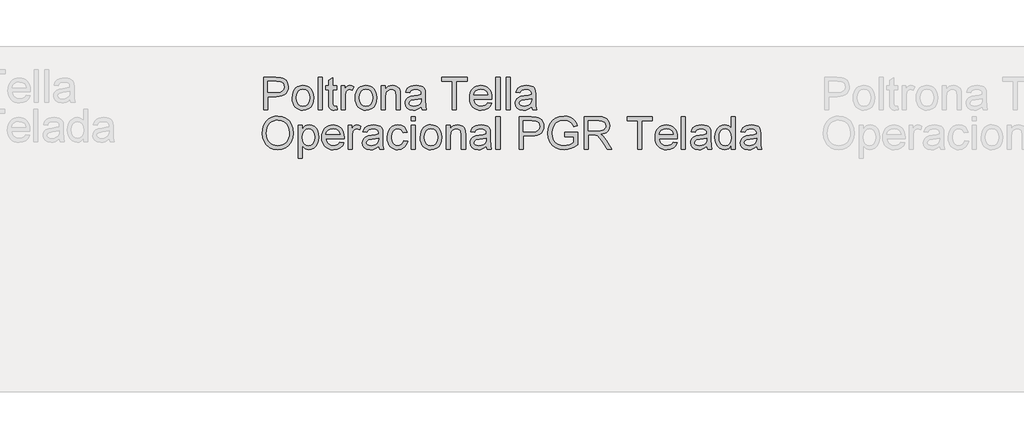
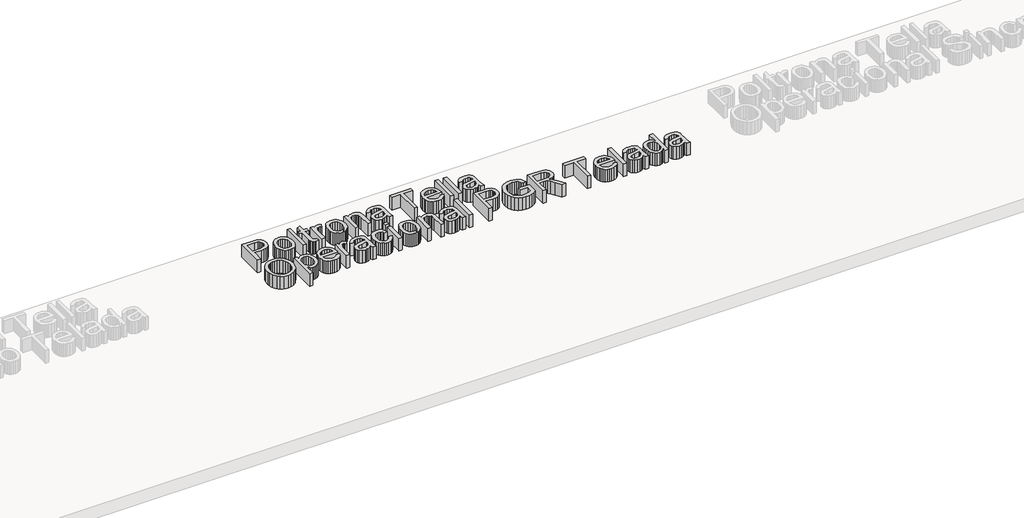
# One storey, part 4 of 5: 1 proxy.
"""IFC4 building model written with IfcOpenShell, lengths in millimetres."""

from ifc_helpers import new_model, si_unit, origin, origin_with_axes, place, context, project, spatial, polyline, outline, extrude, element, save

model = new_model("IFC4")

# Units and contexts
model_context = context("Model", 3, world=origin())
ifc_project = project(units=[si_unit("LENGTHUNIT", "METRE", prefix="MILLI")], contexts=[model_context])

# Site, building, storey
site = spatial("IfcSite", under=ifc_project)
building = spatial("IfcBuilding", under=site)
storey = spatial("IfcBuildingStorey", under=building, Name="Nível 1", Elevation=0.0)

# Proxy
placement = place(None, origin())
element("IfcBuildingElementProxy", 1, Name="300 mm", ObjectType="300 mm", at=placement, inside=storey, context=model_context, shape_type="SweptSolid", body=[
    extrude(outline(polyline([(4285.1352066, 6235.2002146), (4285.1352066, 6536.5691451), (4396.8241803, 6536.5691451), (4441.8529365, 6533.6996655), (4461.9300964, 6528.3377854), (4478.457195, 6519.6097851), (4491.7653262, 6507.1201913), (4502.1855837, 6490.4735311), (4508.9178242, 6470.8378296), (4511.1619044, 6449.3811122), (4509.6466904, 6430.8812464), (4505.1010485, 6413.8621056), (4497.5249787, 6398.3236898), (4486.9184809, 6384.2659991), (4472.3572517, 6372.6133369), (4452.9169875, 6364.2900067), (4428.5976884, 6359.2960086), (4399.3993543, 6357.6313426), (4322.8063229, 6357.6313426), (4322.8063229, 6235.2002146), (4285.1352066, 6235.2002146)]), holes=[polyline([(4322.8063229, 6395.3024589), (4401.6066462, 6395.3024589), (4435.0103314, 6398.7605497), (4457.0832511, 6409.1348219), (4469.3889039, 6425.7814822), (4473.4907881, 6448.056737), (4471.071964, 6464.9793088), (4463.8154916, 6479.2531302), (4452.6226819, 6489.9952845), (4438.3948458, 6496.3228548), (4400.7237295, 6498.8980288), (4322.8063229, 6498.8980288), (4322.8063229, 6395.3024589)])]), origin_with_axes(), (0.0, 0.0, 1.0), 150.0),
    extrude(outline(polyline([(4548.8330207, 6345.8591188), (4550.8701673, 6374.5217247), (4556.9816069, 6399.2204022), (4567.1673396, 6419.9551511), (4581.4273655, 6436.7259716), (4595.7839603, 6447.4451332), (4611.6304773, 6455.1016772), (4628.9669163, 6459.6956036), (4647.7932774, 6461.2269124), (4668.5763109, 6459.3622106), (4687.368183, 6453.768105), (4704.1688939, 6444.4445957), (4718.9784435, 6431.3916826), (4731.0656663, 6415.0508243), (4739.6993969, 6395.863479), (4744.8796352, 6373.8296467), (4746.6063813, 6348.9493275), (4743.5529608, 6310.8919351), (4734.3926991, 6281.921228), (4719.3923107, 6260.2253873), (4698.8185101, 6243.9925943), (4674.3819486, 6233.8666424), (4647.7932774, 6230.4913251), (4626.7067413, 6232.3491291), (4607.7401252, 6237.9225414), (4590.8934291, 6247.2115618), (4576.166653, 6260.2161903), (4564.2081888, 6276.7156978), (4555.6664288, 6296.489355), (4550.5413727, 6319.537162), (4548.8330207, 6345.8591188)]), holes=[polyline([(4586.504137, 6345.9326952), (4590.8635387, 6311.8392313), (4603.9417436, 6287.5498225), (4623.6234303, 6273.0092867), (4647.7932774, 6268.1624414), (4671.8527599, 6273.0368778), (4691.4976584, 6287.6601871), (4704.5758634, 6312.2714926), (4708.935265, 6347.1099175), (4704.5482722, 6380.2101001), (4691.3872938, 6404.168415), (4671.7148042, 6418.7089509), (4647.7932774, 6423.5557961), (4623.6234303, 6418.727345), (4603.9417436, 6404.2419914), (4590.8635387, 6380.007765), (4586.504137, 6345.9326952)])]), origin_with_axes(), (0.0, 0.0, 1.0), 150.0),
    extrude(outline(polyline([(4788.9863872, 6235.2002146), (4788.9863872, 6536.5691451), (4826.6575035, 6536.5691451), (4826.6575035, 6235.2002146), (4788.9863872, 6235.2002146)])), origin_with_axes(), (0.0, 0.0, 1.0), 150.0),
    extrude(outline(polyline([(4963.2153001, 6266.617337), (4967.9241896, 6234.0965686), (4939.7444288, 6230.4913251), (4921.6630287, 6232.0548236), (4908.1801536, 6236.745319), (4898.6520099, 6243.9742002), (4892.4348042, 6253.152856), (4889.0135017, 6268.9165995), (4887.8730675, 6295.9007438), (4887.8730675, 6418.8469066), (4859.6197302, 6418.8469066), (4859.6197302, 6456.5180229), (4887.8730675, 6456.5180229), (4887.8730675, 6510.3023706), (4925.5441838, 6532.4488667), (4925.5441838, 6456.5180229), (4963.2153001, 6456.5180229), (4963.2153001, 6418.8469066), (4925.5441838, 6418.8469066), (4925.5441838, 6297.0043898), (4927.5307465, 6277.5802205), (4933.9686815, 6270.7008271), (4946.8077631, 6268.1624414), (4963.2153001, 6266.617337)])), origin_with_axes(), (0.0, 0.0, 1.0), 150.0),
    extrude(outline(polyline([(5000.8864164, 6235.2002146), (5000.8864164, 6456.5180229), (5033.8486432, 6456.5180229), (5033.8486432, 6423.7765253), (5046.0255372, 6442.7592363), (5057.245938, 6453.9428489), (5068.5031271, 6459.4058966), (5080.7903857, 6461.2269124), (5099.5523675, 6458.3206447), (5118.6086548, 6449.6018414), (5106.0270906, 6415.8302742), (5092.7833388, 6421.6244157), (5079.539587, 6423.5557961), (5068.291595, 6421.6979921), (5058.2392194, 6416.1245798), (5050.1182244, 6407.2586238), (5044.6643738, 6395.5231881), (5040.084243, 6374.480338), (5038.5575327, 6351.5245015), (5038.5575327, 6235.2002146), (5000.8864164, 6235.2002146)])), origin_with_axes(), (0.0, 0.0, 1.0), 150.0),
    extrude(outline(polyline([(5132.7353235, 6345.8591188), (5134.77247, 6374.5217247), (5140.8839096, 6399.2204022), (5151.0696424, 6419.9551511), (5165.3296682, 6436.7259716), (5179.6862631, 6447.4451332), (5195.53278, 6455.1016772), (5212.8692191, 6459.6956036), (5231.6955802, 6461.2269124), (5252.4786136, 6459.3622106), (5271.2704858, 6453.768105), (5288.0711967, 6444.4445957), (5302.8807462, 6431.3916826), (5314.967969, 6415.0508243), (5323.6016996, 6395.863479), (5328.7819379, 6373.8296467), (5330.5086841, 6348.9493275), (5327.4552635, 6310.8919351), (5318.2950018, 6281.921228), (5303.2946135, 6260.2253873), (5282.7208129, 6243.9925943), (5258.2842514, 6233.8666424), (5231.6955802, 6230.4913251), (5210.609044, 6232.3491291), (5191.6424279, 6237.9225414), (5174.7957318, 6247.2115618), (5160.0689557, 6260.2161903), (5148.1104916, 6276.7156978), (5139.5687315, 6296.489355), (5134.4436755, 6319.537162), (5132.7353235, 6345.8591188)]), holes=[polyline([(5170.4064398, 6345.9326952), (5174.7658414, 6311.8392313), (5187.8440463, 6287.5498225), (5207.5257331, 6273.0092867), (5231.6955802, 6268.1624414), (5255.7550626, 6273.0368778), (5275.3999612, 6287.6601871), (5288.4781661, 6312.2714926), (5292.8375678, 6347.1099175), (5288.450575, 6380.2101001), (5275.2895966, 6404.168415), (5255.6171069, 6418.7089509), (5231.6955802, 6423.5557961), (5207.5257331, 6418.727345), (5187.8440463, 6404.2419914), (5174.7658414, 6380.007765), (5170.4064398, 6345.9326952)])]), origin_with_axes(), (0.0, 0.0, 1.0), 150.0),
    extrude(outline(polyline([(5372.8886899, 6235.2002146), (5372.8886899, 6456.5180229), (5410.5598062, 6456.5180229), (5410.5598062, 6425.6159353), (5423.6472082, 6441.1957378), (5439.3649664, 6452.3241682), (5457.7130809, 6459.0012264), (5478.6915517, 6461.2269124), (5497.2603954, 6459.4334877), (5514.2657407, 6454.0532135), (5528.4475916, 6445.7574746), (5538.5459523, 6435.2176554), (5549.8399296, 6407.5161412), (5551.8264924, 6371.0958236), (5551.8264924, 6235.2002146), (5514.1553761, 6235.2002146), (5514.1553761, 6366.0190521), (5509.8143685, 6399.3491609), (5503.8086949, 6409.2727777), (5494.4736893, 6416.9707084), (5482.5083274, 6421.9095242), (5468.6115851, 6423.5557961), (5446.5478624, 6419.8585821), (5427.7398954, 6408.7669399), (5420.2236064, 6399.7124443), (5414.8548285, 6387.3378137), (5410.5598062, 6352.6281475), (5410.5598062, 6235.2002146), (5372.8886899, 6235.2002146)])), origin_with_axes(), (0.0, 0.0, 1.0), 150.0),
    extrude(outline(polyline([(5744.8909634, 6263.4535518), (5726.8923368, 6248.0209021), (5708.3602813, 6237.9225414), (5688.8717326, 6232.3491291), (5668.0036264, 6230.4913251), (5636.5221247, 6234.9610913), (5613.2995738, 6248.37039), (5598.9797671, 6268.7326585), (5594.2064982, 6294.0613338), (5596.00912, 6309.6779245), (5601.4169853, 6323.8597754), (5609.7587096, 6335.9998813), (5620.3629081, 6345.4912368), (5646.7400471, 6357.8520718), (5679.3343919, 6363.5174545), (5717.8516368, 6369.4771429), (5744.6702342, 6376.4669008), (5744.8909634, 6384.8546102), (5742.2973954, 6401.6668174), (5734.5166912, 6412.6664891), (5717.1158728, 6420.8334694), (5692.8724493, 6423.5557961), (5670.4316476, 6421.7439773), (5654.7598746, 6416.3085208), (5644.0729027, 6406.2561453), (5636.5865041, 6390.5935694), (5598.9153877, 6395.3024589), (5605.4544902, 6415.9038506), (5615.2125601, 6432.0906584), (5629.1001054, 6444.4698876), (5648.0276341, 6453.6485433), (5671.1766086, 6459.3323202), (5697.7284916, 6461.2269124), (5723.1951228, 6459.5530494), (5743.3826473, 6454.5314601), (5758.6037648, 6446.9806822), (5769.1711751, 6437.719253), (5776.1793271, 6426.2689259), (5780.7226698, 6412.1514543), (5782.5620797, 6379.1892275), (5782.5620797, 6332.3210613), (5784.4750661, 6266.8748544), (5791.9798588, 6235.2002146), (5754.3087425, 6235.2002146), (5744.8909634, 6263.4535518)]), holes=[polyline([(5744.8909634, 6338.7957845), (5684.1168578, 6327.2442898), (5651.7064541, 6321.1374487), (5637.0279624, 6311.2046348), (5631.8776145, 6296.7100842), (5634.6827147, 6285.5080775), (5643.0980154, 6276.3294217), (5656.9395754, 6270.2041865), (5676.0234539, 6268.1624414), (5696.2569637, 6270.4157186), (5714.1360286, 6277.1755503), (5728.6305792, 6287.1359553), (5738.7105459, 6298.9909526), (5743.1803122, 6311.2046348), (5744.6702342, 6328.1272066), (5744.8909634, 6338.7957845)])]), origin_with_axes(), (0.0, 0.0, 1.0), 150.0),
    extrude(outline(polyline([(6032.1332253, 6235.2002146), (6032.1332253, 6498.8980288), (5933.246545, 6498.8980288), (5933.246545, 6536.5691451), (6168.6910219, 6536.5691451), (6168.6910219, 6498.8980288), (6069.8043416, 6498.8980288), (6069.8043416, 6235.2002146), (6032.1332253, 6235.2002146)])), origin_with_axes(), (0.0, 0.0, 1.0), 150.0),
    extrude(outline(polyline([(6361.3140345, 6301.1246681), (6398.2493869, 6296.4157786), (6384.9412557, 6268.5855057), (6363.7052675, 6247.7817788), (6335.0196689, 6234.8139385), (6299.3627066, 6230.4913251), (6275.9884043, 6232.3560269), (6255.1616848, 6237.9501325), (6236.8825482, 6247.2736418), (6221.1509944, 6260.3265549), (6208.5004523, 6276.7455882), (6199.4643508, 6296.1674583), (6194.0426899, 6318.5921651), (6192.2354696, 6344.0197088), (6194.061084, 6370.3094759), (6199.5379272, 6393.481443), (6208.6659992, 6413.5356103), (6221.4453, 6430.4719777), (6237.1354671, 6443.9272616), (6254.9961379, 6453.5381787), (6275.0273126, 6459.304729), (6297.228991, 6461.2269124), (6318.7155988, 6459.3093275), (6338.1466659, 6453.5565728), (6355.5221924, 6443.9686483), (6370.8421782, 6430.545554), (6383.3478668, 6413.6459749), (6392.2805015, 6393.6285958), (6397.6400823, 6370.4934169), (6399.4266092, 6344.240438), (6399.2058801, 6334.0868949), (6229.9065859, 6334.0868949), (6236.4272942, 6305.88874), (6251.5748354, 6285.1585896), (6273.436223, 6272.4114784), (6300.0984706, 6268.1624414), (6320.1480393, 6270.1306101), (6337.0338229, 6276.0351161), (6350.7558213, 6286.2438414), (6361.3140345, 6301.1246681)]), holes=[polyline([(6229.9065859, 6371.7580112), (6361.7554929, 6371.7580112), (6356.6603273, 6391.6604272), (6346.6723311, 6405.8974604), (6324.709776, 6419.1412122), (6297.0818382, 6423.5557961), (6271.6887835, 6420.033326), (6250.6919186, 6409.4659157), (6236.0962004, 6392.9939994), (6229.9065859, 6371.7580112)])]), origin_with_axes(), (0.0, 0.0, 1.0), 150.0),
    extrude(outline(polyline([(6437.0977256, 6235.2002146), (6437.0977256, 6536.5691451), (6474.7688419, 6536.5691451), (6474.7688419, 6235.2002146), (6437.0977256, 6235.2002146)])), origin_with_axes(), (0.0, 0.0, 1.0), 150.0),
    extrude(outline(polyline([(6531.2755163, 6235.2002146), (6531.2755163, 6536.5691451), (6568.9466326, 6536.5691451), (6568.9466326, 6235.2002146), (6531.2755163, 6235.2002146)])), origin_with_axes(), (0.0, 0.0, 1.0), 150.0),
    extrude(outline(polyline([(6766.7199932, 6263.4535518), (6748.7213666, 6248.0209021), (6730.1893111, 6237.9225414), (6710.7007624, 6232.3491291), (6689.8326562, 6230.4913251), (6658.3511545, 6234.9610913), (6635.1286036, 6248.37039), (6620.8087969, 6268.7326585), (6616.035528, 6294.0613338), (6617.8381498, 6309.6779245), (6623.2460151, 6323.8597754), (6631.5877394, 6335.9998813), (6642.1919379, 6345.4912368), (6668.5690769, 6357.8520718), (6701.1634217, 6363.5174545), (6739.6806666, 6369.4771429), (6766.499264, 6376.4669008), (6766.7199932, 6384.8546102), (6764.1264252, 6401.6668174), (6756.345721, 6412.6664891), (6738.9449026, 6420.8334694), (6714.7014791, 6423.5557961), (6692.2606774, 6421.7439773), (6676.5889044, 6416.3085208), (6665.9019325, 6406.2561453), (6658.4155339, 6390.5935694), (6620.7444175, 6395.3024589), (6627.28352, 6415.9038506), (6637.0415899, 6432.0906584), (6650.9291353, 6444.4698876), (6669.8566639, 6453.6485433), (6693.0056385, 6459.3323202), (6719.5575215, 6461.2269124), (6745.0241526, 6459.5530494), (6765.2116771, 6454.5314601), (6780.4327946, 6446.9806822), (6791.0002049, 6437.719253), (6798.0083569, 6426.2689259), (6802.5516996, 6412.1514543), (6804.3911095, 6379.1892275), (6804.3911095, 6332.3210613), (6806.3040959, 6266.8748544), (6813.8088886, 6235.2002146), (6776.1377723, 6235.2002146), (6766.7199932, 6263.4535518)]), holes=[polyline([(6766.7199932, 6338.7957845), (6705.9458876, 6327.2442898), (6673.5354839, 6321.1374487), (6658.8569922, 6311.2046348), (6653.7066443, 6296.7100842), (6656.5117445, 6285.5080775), (6664.9270452, 6276.3294217), (6678.7686052, 6270.2041865), (6697.8524837, 6268.1624414), (6718.0859935, 6270.4157186), (6735.9650584, 6277.1755503), (6750.459609, 6287.1359553), (6760.5395757, 6298.9909526), (6765.009342, 6311.2046348), (6766.499264, 6328.1272066), (6766.7199932, 6338.7957845)])]), origin_with_axes(), (0.0, 0.0, 1.0), 150.0),
    extrude(outline(polyline([(4271.008538, 6015.9871008), (4273.5193326, 6051.335962), (4281.0517164, 6082.6289242), (4293.6056895, 6109.8659874), (4311.1812518, 6133.0471516), (4332.7253412, 6151.5562145), (4357.1848953, 6164.7769737), (4384.5599143, 6172.7094292), (4414.8503981, 6175.3535811), (4454.3793185, 6170.3871741), (4489.8247487, 6155.4879533), (4519.2553083, 6131.7043823), (4540.7396168, 6100.0849248), (4553.873004, 6062.1562911), (4558.2507998, 6019.4451915), (4553.6430778, 5976.1638748), (4539.8199118, 5937.7018122), (4517.544657, 5906.0271724), (4487.5806685, 5883.1081241), (4452.4387409, 5869.2021847), (4414.6296689, 5864.5668715), (4374.4937432, 5869.6896283), (4338.8459779, 5885.0578987), (4309.4889947, 5909.2829281), (4288.2254153, 5940.9759619), (4275.3127573, 5977.4422647), (4271.008538, 6015.9871008)]), holes=[polyline([(4308.6796543, 6015.6192188), (4310.5627502, 5990.6446298), (4316.2120381, 5968.4751411), (4325.6275179, 5949.1107526), (4338.8091897, 5932.5514642), (4354.8327498, 5919.2893183), (4372.7738949, 5909.8163569), (4392.6326248, 5904.1325801), (4414.4089397, 5902.2379878), (4436.557735, 5904.1509742), (4456.6509898, 5909.8899333), (4474.6887038, 5919.4548652), (4490.6708773, 5932.8457698), (4503.75598, 5949.754546), (4513.1024819, 5969.8730927), (4518.7103831, 5993.2014097), (4520.5796835, 6019.7394971), (4517.3791101, 6053.088), (4507.7773901, 6081.9115543), (4492.0228436, 6105.4835931), (4470.3637911, 6123.0775495), (4444.2349724, 6134.031236), (4415.0711273, 6137.6824648), (4394.0512698, 6135.923529), (4374.5489255, 6130.6467216), (4356.5640945, 6121.8520427), (4340.0967766, 6109.5394921), (4326.3517856, 6093.1158603), (4316.5339349, 6071.9879375), (4310.6432244, 6046.1557236), (4308.6796543, 6015.6192188)])]), origin_with_axes(), (0.0, 0.0, 1.0), 150.0),
    extrude(outline(polyline([(4605.3396952, 5784.5157494), (4605.3396952, 6090.5935694), (4643.0108115, 6090.5935694), (4643.0108115, 6053.6582171), (4655.2980701, 6071.8775729), (4669.0568567, 6084.8913984), (4685.0965117, 6092.6996938), (4704.2263755, 6095.3024589), (4729.7022036, 6091.6604272), (4751.9774584, 6080.7343319), (4770.1140408, 6063.1863607), (4783.1738516, 6039.6787012), (4791.0649204, 6011.9220047), (4793.6952767, 5981.6269224), (4790.7246296, 5949.4096567), (4781.8126883, 5920.5952994), (4767.2445612, 5896.6461815), (4747.3053571, 5879.0246339), (4724.0828062, 5868.1813121), (4699.6646387, 5864.5668715), (4682.3465938, 5866.9856957), (4666.886353, 5874.242168), (4653.6517982, 5885.1958544), (4643.0108115, 5898.7063207), (4643.0108115, 5784.5157494), (4605.3396952, 5784.5157494)]), holes=[polyline([(4643.0108115, 5978.1688316), (4647.0851046, 5944.3972645), (4659.3079839, 5920.7792404), (4677.3433987, 5906.873301), (4698.8552983, 5902.2379878), (4720.7166859, 5907.0388479), (4739.2119532, 5921.441428), (4751.8211086, 5945.9239748), (4756.0241604, 5980.9647348), (4751.9222761, 6014.552361), (4739.6166234, 6038.5014789), (4721.6087997, 6052.8488767), (4700.4004027, 6057.6313426), (4679.1092323, 6052.545374), (4660.4116298, 6037.2874683), (4647.3610161, 6012.3358719), (4643.0108115, 5978.1688316)])]), origin_with_axes(), (0.0, 0.0, 1.0), 150.0),
    extrude(outline(polyline([(4991.0271789, 5935.2002146), (5027.9625312, 5930.4913251), (5014.6544001, 5902.6610521), (4993.4184119, 5881.8573253), (4964.7328133, 5868.889485), (4929.0758509, 5864.5668715), (4905.7015487, 5866.4315734), (4884.8748292, 5872.025679), (4866.5956926, 5881.3491883), (4850.8641388, 5894.4021013), (4838.2135966, 5910.8211346), (4829.1774951, 5930.2430047), (4823.7558342, 5952.6677116), (4821.9486139, 5978.0952552), (4823.7742283, 6004.3850223), (4829.2510715, 6027.5569895), (4838.3791435, 6047.6111568), (4851.1584443, 6064.5475241), (4866.8486114, 6078.0028081), (4884.7092823, 6087.6137252), (4904.7404569, 6093.3802755), (4926.9421354, 6095.3024589), (4948.4287431, 6093.384874), (4967.8598103, 6087.6321193), (4985.2353368, 6078.0441948), (5000.5553226, 6064.6211005), (5013.0610112, 6047.7215214), (5021.9936459, 6027.7041423), (5027.3532267, 6004.5689633), (5029.1397536, 5978.3159844), (5028.9190244, 5968.1624414), (4859.6197302, 5968.1624414), (4866.1404386, 5939.9642864), (4881.2879798, 5919.234136), (4903.1493673, 5906.4870249), (4929.8116149, 5902.2379878), (4949.8611837, 5904.2061565), (4966.7469672, 5910.1106625), (4980.4689657, 5920.3193879), (4991.0271789, 5935.2002146)]), holes=[polyline([(4859.6197302, 6005.8335577), (4991.4686373, 6005.8335577), (4986.3734717, 6025.7359736), (4976.3854755, 6039.9730068), (4954.4229204, 6053.2167587), (4926.7949826, 6057.6313426), (4901.4019278, 6054.1088725), (4880.405063, 6043.5414622), (4865.8093448, 6027.0695459), (4859.6197302, 6005.8335577)])]), origin_with_axes(), (0.0, 0.0, 1.0), 150.0),
    extrude(outline(polyline([(5066.8108699, 5869.2757611), (5066.8108699, 6090.5935694), (5099.7730967, 6090.5935694), (5099.7730967, 6057.8520718), (5111.9499907, 6076.8347828), (5123.1703916, 6088.0183954), (5134.4275806, 6093.481443), (5146.7148393, 6095.3024589), (5165.476821, 6092.3961911), (5184.5331084, 6083.6773879), (5171.9515441, 6049.9058207), (5158.7077923, 6055.6999621), (5145.4640405, 6057.6313426), (5134.2160485, 6055.7735385), (5124.163673, 6050.2001263), (5116.0426779, 6041.3341702), (5110.5888273, 6029.5987346), (5106.0086965, 6008.5558844), (5104.4819862, 5985.6000479), (5104.4819862, 5869.2757611), (5066.8108699, 5869.2757611)])), origin_with_axes(), (0.0, 0.0, 1.0), 150.0),
    extrude(outline(polyline([(5349.3442422, 5897.5290983), (5331.3456156, 5882.0964486), (5312.8135601, 5871.9980878), (5293.3250114, 5866.4246756), (5272.4569052, 5864.5668715), (5240.9754035, 5869.0366378), (5217.7528525, 5882.4459365), (5203.4330459, 5902.8082049), (5198.659777, 5928.1368803), (5200.4623988, 5943.753471), (5205.8702641, 5957.9353219), (5214.2119883, 5970.0754278), (5224.8161868, 5979.5667832), (5251.1933259, 5991.9276183), (5283.7876707, 5997.593001), (5322.3049156, 6003.5526893), (5349.123513, 6010.5424472), (5349.3442422, 6018.9301567), (5346.7506742, 6035.7423639), (5338.96997, 6046.7420355), (5321.5691516, 6054.9090158), (5297.3257281, 6057.6313426), (5274.8849264, 6055.8195238), (5259.2131534, 6050.3840673), (5248.5261814, 6040.3316918), (5241.0397828, 6024.6691158), (5203.3686665, 6029.3780054), (5209.907769, 6049.9793971), (5219.6658389, 6066.1662049), (5233.5533842, 6078.545434), (5252.4809129, 6087.7240898), (5275.6298874, 6093.4078666), (5302.1817704, 6095.3024589), (5327.6484016, 6093.6285958), (5347.835926, 6088.6070066), (5363.0570436, 6081.0562286), (5373.6244539, 6071.7947994), (5380.6326059, 6060.3444723), (5385.1759485, 6046.2270008), (5387.0153585, 6013.264774), (5387.0153585, 5966.3966078), (5388.9283449, 5900.9504009), (5396.4331376, 5869.2757611), (5358.7620213, 5869.2757611), (5349.3442422, 5897.5290983)]), holes=[polyline([(5349.3442422, 5972.8713309), (5288.5701366, 5961.3198363), (5256.1597328, 5955.2129951), (5241.4812412, 5945.2801813), (5236.3308933, 5930.7856307), (5239.1359935, 5919.5836239), (5247.5512942, 5910.4049681), (5261.3928542, 5904.2797329), (5280.4767327, 5902.2379878), (5300.7102425, 5904.4912651), (5318.5893074, 5911.2510967), (5333.083858, 5921.2115017), (5343.1638247, 5933.066499), (5347.6335909, 5945.2801813), (5349.123513, 5962.2027531), (5349.3442422, 5972.8713309)])]), origin_with_axes(), (0.0, 0.0, 1.0), 150.0),
    extrude(outline(polyline([(5580.0798296, 5949.3268832), (5617.7509459, 5944.6179937), (5607.2479149, 5911.113141), (5587.5110459, 5885.7936627), (5560.3981428, 5869.8735693), (5527.7670099, 5864.5668715), (5506.639087, 5866.4177778), (5487.6954636, 5871.9704967), (5470.9361394, 5881.2250281), (5456.3611146, 5894.1813721), (5444.5635989, 5910.5958069), (5436.1368019, 5930.2246106), (5431.0807238, 5953.0677833), (5429.3953644, 5979.1253248), (5432.274041, 6012.6485716), (5440.9100708, 6041.7020522), (5455.4414096, 6065.1637265), (5476.0060132, 6081.9115543), (5500.6081216, 6091.9547328), (5527.2519751, 6095.3024589), (5559.0829647, 6090.703934), (5584.5312017, 6076.9083592), (5602.7873457, 6054.6514984), (5613.0420564, 6024.6691158), (5575.3709401, 6019.9602263), (5568.537532, 6036.3953544), (5557.8965453, 6048.1767753), (5544.0365911, 6055.2677008), (5527.5462807, 6057.6313426), (5503.2016896, 6052.9776354), (5483.8786879, 6039.0165136), (5471.2695325, 6014.9938194), (5467.0664807, 5980.1553944), (5471.177562, 5944.8479199), (5483.5108059, 5920.7424522), (5502.4843198, 5906.8641039), (5526.5162111, 5902.2379878), (5546.0231539, 5905.1258615), (5562.0168236, 5913.7894825), (5573.6510917, 5928.44958), (5580.0798296, 5949.3268832)])), origin_with_axes(), (0.0, 0.0, 1.0), 150.0),
    extrude(outline(polyline([(5650.7131727, 6132.9735752), (5650.7131727, 6170.6446915), (5688.384289, 6170.6446915), (5688.384289, 6132.9735752), (5650.7131727, 6132.9735752)])), origin_with_axes(), (0.0, 0.0, 1.0), 150.0),
    extrude(outline(polyline([(5650.7131727, 5869.2757611), (5650.7131727, 6090.5935694), (5688.384289, 6090.5935694), (5688.384289, 5869.2757611), (5650.7131727, 5869.2757611)])), origin_with_axes(), (0.0, 0.0, 1.0), 150.0),
    extrude(outline(polyline([(5735.4731844, 5979.9346652), (5737.5103309, 6008.5972712), (5743.6217705, 6033.2959486), (5753.8075033, 6054.0306976), (5768.0675291, 6070.801518), (5782.424124, 6081.5206797), (5798.2706409, 6089.1772237), (5815.60708, 6093.7711501), (5834.4334411, 6095.3024589), (5855.2164745, 6093.437757), (5874.0083467, 6087.8436515), (5890.8090576, 6078.5201421), (5905.6186071, 6065.4672291), (5917.7058299, 6049.1263707), (5926.3395605, 6029.9390254), (5931.5197988, 6007.9051932), (5933.246545, 5983.024874), (5930.1931244, 5944.9674816), (5921.0328627, 5915.9967745), (5906.0324744, 5894.3009338), (5885.4586738, 5878.0681408), (5861.0221123, 5867.9421888), (5834.4334411, 5864.5668715), (5813.3469049, 5866.4246756), (5794.3802888, 5871.9980878), (5777.5335927, 5881.2871082), (5762.8068166, 5894.2917367), (5750.8483525, 5910.7912442), (5742.3065924, 5930.5649015), (5737.1815364, 5953.6127085), (5735.4731844, 5979.9346652)]), holes=[polyline([(5773.1443007, 5980.0082416), (5777.5037023, 5945.9147777), (5790.5819072, 5921.625369), (5810.263594, 5907.0848331), (5834.4334411, 5902.2379878), (5858.4929235, 5907.1124243), (5878.1378221, 5921.7357336), (5891.216027, 5946.3470391), (5895.5754287, 5981.185464), (5891.1884359, 6014.2856465), (5878.0274575, 6038.2439615), (5858.3549678, 6052.7844973), (5834.4334411, 6057.6313426), (5810.263594, 6052.8028914), (5790.5819072, 6038.3175379), (5777.5037023, 6014.0833114), (5773.1443007, 5980.0082416)])]), origin_with_axes(), (0.0, 0.0, 1.0), 150.0),
    extrude(outline(polyline([(5975.6265508, 5869.2757611), (5975.6265508, 6090.5935694), (6013.2976671, 6090.5935694), (6013.2976671, 6059.6914818), (6026.3850691, 6075.2712843), (6042.1028273, 6086.3997146), (6060.4509418, 6093.0767728), (6081.4294126, 6095.3024589), (6099.9982563, 6093.5090342), (6117.0036016, 6088.12876), (6131.1854525, 6079.833021), (6141.2838132, 6069.2932019), (6152.5777905, 6041.5916876), (6154.5643533, 6005.1713701), (6154.5643533, 5869.2757611), (6116.893237, 5869.2757611), (6116.893237, 6000.0945986), (6112.5522294, 6033.4247073), (6106.5465558, 6043.3483241), (6097.2115502, 6051.0462549), (6085.2461883, 6055.9850707), (6071.349446, 6057.6313426), (6049.2857233, 6053.9341286), (6030.4777563, 6042.8424864), (6022.9614673, 6033.7879908), (6017.5926894, 6021.4133602), (6013.2976671, 5986.7036939), (6013.2976671, 5869.2757611), (5975.6265508, 5869.2757611)])), origin_with_axes(), (0.0, 0.0, 1.0), 150.0),
    extrude(outline(polyline([(6347.6288243, 5897.5290983), (6329.6301977, 5882.0964486), (6311.0981422, 5871.9980878), (6291.6095935, 5866.4246756), (6270.7414873, 5864.5668715), (6239.2599856, 5869.0366378), (6216.0374347, 5882.4459365), (6201.717628, 5902.8082049), (6196.9443591, 5928.1368803), (6198.7469809, 5943.753471), (6204.1548462, 5957.9353219), (6212.4965705, 5970.0754278), (6223.100769, 5979.5667832), (6249.477908, 5991.9276183), (6282.0722528, 5997.593001), (6320.5894977, 6003.5526893), (6347.4080951, 6010.5424472), (6347.6288243, 6018.9301567), (6345.0352563, 6035.7423639), (6337.2545521, 6046.7420355), (6319.8537337, 6054.9090158), (6295.6103102, 6057.6313426), (6273.1695085, 6055.8195238), (6257.4977355, 6050.3840673), (6246.8107636, 6040.3316918), (6239.3243649, 6024.6691158), (6201.6532486, 6029.3780054), (6208.1923511, 6049.9793971), (6217.950421, 6066.1662049), (6231.8379663, 6078.545434), (6250.765495, 6087.7240898), (6273.9144695, 6093.4078666), (6300.4663525, 6095.3024589), (6325.9329837, 6093.6285958), (6346.1205081, 6088.6070066), (6361.3416257, 6081.0562286), (6371.909036, 6071.7947994), (6378.917188, 6060.3444723), (6383.4605307, 6046.2270008), (6385.2999406, 6013.264774), (6385.2999406, 5966.3966078), (6387.212927, 5900.9504009), (6394.7177197, 5869.2757611), (6357.0466034, 5869.2757611), (6347.6288243, 5897.5290983)]), holes=[polyline([(6347.6288243, 5972.8713309), (6286.8547187, 5961.3198363), (6254.444315, 5955.2129951), (6239.7658233, 5945.2801813), (6234.6154754, 5930.7856307), (6237.4205756, 5919.5836239), (6245.8358763, 5910.4049681), (6259.6774363, 5904.2797329), (6278.7613148, 5902.2379878), (6298.9948246, 5904.4912651), (6316.8738895, 5911.2510967), (6331.3684401, 5921.2115017), (6341.4484068, 5933.066499), (6345.9181731, 5945.2801813), (6347.4080951, 5962.2027531), (6347.6288243, 5972.8713309)])]), origin_with_axes(), (0.0, 0.0, 1.0), 150.0),
    extrude(outline(polyline([(6437.0977256, 5869.2757611), (6437.0977256, 6170.6446915), (6474.7688419, 6170.6446915), (6474.7688419, 5869.2757611), (6437.0977256, 5869.2757611)])), origin_with_axes(), (0.0, 0.0, 1.0), 150.0),
    extrude(outline(polyline([(6653.7066443, 5869.2757611), (6653.7066443, 6170.6446915), (6765.3956181, 6170.6446915), (6810.4243743, 6167.775212), (6830.5015341, 6162.4133319), (6847.0286328, 6153.6853315), (6860.336764, 6141.1957378), (6870.7570215, 6124.5490775), (6877.489262, 6104.913376), (6879.7333422, 6083.4566587), (6878.2181282, 6064.9567928), (6873.6724863, 6047.937652), (6866.0964164, 6032.3992363), (6855.4899187, 6018.3415455), (6840.9286894, 6006.6888833), (6821.4884253, 5998.3655532), (6797.1691261, 5993.3715551), (6767.970792, 5991.7068891), (6691.3777606, 5991.7068891), (6691.3777606, 5869.2757611), (6653.7066443, 5869.2757611)]), holes=[polyline([(6691.3777606, 6029.3780054), (6770.178084, 6029.3780054), (6803.5817692, 6032.8360961), (6825.6546889, 6043.2103684), (6837.9603416, 6059.8570287), (6842.0622258, 6082.1322835), (6839.6434017, 6099.0548553), (6832.3869294, 6113.3286767), (6821.1941197, 6124.0708309), (6806.9662835, 6130.3984013), (6769.2951672, 6132.9735752), (6691.3777606, 6132.9735752), (6691.3777606, 6029.3780054)])]), origin_with_axes(), (0.0, 0.0, 1.0), 150.0),
    extrude(outline(polyline([(7072.7978132, 5986.9979995), (7072.7978132, 6024.6691158), (7195.2289412, 6024.6691158), (7195.2289412, 5912.0236489), (7165.4764849, 5891.3302867), (7134.7859294, 5876.4862482), (7103.2308513, 5867.5467157), (7070.8848268, 5864.5668715), (7028.6243827, 5869.3033522), (6990.4290345, 5883.5127943), (6958.6992124, 5906.698557), (6935.8353464, 5938.3639998), (6922.0121804, 5976.3478158), (6917.4044585, 6018.4886983), (6921.9937863, 6060.9330835), (6935.76177, 6100.4160186), (6958.1381924, 6133.5345953), (6988.5528363, 6156.8859049), (7025.5985532, 6170.736662), (7067.8681945, 6175.3535811), (7098.8990408, 6172.6772395), (7126.8028901, 6164.648215), (7150.3013526, 6151.8459216), (7168.1160382, 6134.8497734), (7181.2954106, 6112.841233), (7190.8879337, 6085.001763), (7156.1598733, 6075.216102), (7148.4067603, 6095.0725327), (7138.9797842, 6110.0545269), (7126.5085845, 6121.3485042), (7109.6228009, 6130.1408839), (7089.4904588, 6135.7970695), (7067.2795833, 6137.6824648), (7041.2795233, 6135.6499167), (7019.0502537, 6129.5522727), (7000.6745481, 6120.1528877), (6986.2351798, 6108.2151169), (6966.8477986, 6079.1892275), (6958.0186307, 6050.7519493), (6955.0755748, 6020.0338027), (6958.616439, 5984.0089583), (6969.2390316, 5954.3668666), (6986.6214559, 5931.3190596), (7010.441815, 5915.0770695), (7038.3180732, 5905.4477583), (7067.8681945, 5902.2379878), (7093.960225, 5904.656812), (7119.408462, 5911.9132843), (7141.5089729, 5921.9104775), (7157.5578249, 5932.5514642), (7157.5578249, 5986.9979995), (7072.7978132, 5986.9979995)])), origin_with_axes(), (0.0, 0.0, 1.0), 150.0),
    extrude(outline(polyline([(7256.4445052, 5869.2757611), (7256.4445052, 6170.6446915), (7386.3068495, 6170.6446915), (7421.2096538, 6168.6121435), (7446.6027085, 6162.5144994), (7465.1623552, 6151.2573104), (7479.5649353, 6133.7461274), (7488.8079704, 6112.0318926), (7491.8889821, 6088.1655482), (7486.7846194, 6058.4774712), (7471.4715314, 6033.8661657), (7459.8717522, 6023.8367828), (7445.4898655, 6015.8215539), (7408.3797692, 6005.8335577), (7429.7905013, 5989.7203263), (7460.3247069, 5950.945564), (7510.5773875, 5869.2757611), (7466.7994301, 5869.2757611), (7427.5832094, 5931.7421239), (7399.2562957, 5973.0920601), (7379.3538798, 5992.6265941), (7361.4380266, 5999.800293), (7339.5858361, 6001.1246681), (7294.1156215, 6001.1246681), (7294.1156215, 5869.2757611), (7256.4445052, 5869.2757611)]), holes=[polyline([(7294.1156215, 6038.7957845), (7378.4341748, 6038.7957845), (7402.6500071, 6040.1293567), (7421.4395801, 6044.1300734), (7435.5846428, 6051.064649), (7445.8669445, 6061.199798), (7452.1301355, 6073.4594654), (7454.2178658, 6086.7675966), (7450.2355432, 6105.1433023), (7438.2885754, 6119.9505526), (7417.7331689, 6129.7178196), (7387.9255303, 6132.9735752), (7294.1156215, 6132.9735752), (7294.1156215, 6038.7957845)])]), origin_with_axes(), (0.0, 0.0, 1.0), 150.0),
    extrude(outline(polyline([(7750.8779067, 5869.2757611), (7750.8779067, 6132.9735752), (7651.9912264, 6132.9735752), (7651.9912264, 6170.6446915), (7887.4357033, 6170.6446915), (7887.4357033, 6132.9735752), (7788.549023, 6132.9735752), (7788.549023, 5869.2757611), (7750.8779067, 5869.2757611)])), origin_with_axes(), (0.0, 0.0, 1.0), 150.0),
    extrude(outline(polyline([(8080.058716, 5935.2002146), (8116.9940683, 5930.4913251), (8103.6859372, 5902.6610521), (8082.449949, 5881.8573253), (8053.7643504, 5868.889485), (8018.107388, 5864.5668715), (7994.7330858, 5866.4315734), (7973.9063663, 5872.025679), (7955.6272297, 5881.3491883), (7939.8956759, 5894.4021013), (7927.2451337, 5910.8211346), (7918.2090322, 5930.2430047), (7912.7873713, 5952.6677116), (7910.980151, 5978.0952552), (7912.8057654, 6004.3850223), (7918.2826086, 6027.5569895), (7927.4106806, 6047.6111568), (7940.1899814, 6064.5475241), (7955.8801485, 6078.0028081), (7973.7408194, 6087.6137252), (7993.771994, 6093.3802755), (8015.9736725, 6095.3024589), (8037.4602802, 6093.384874), (8056.8913474, 6087.6321193), (8074.2668739, 6078.0441948), (8089.5868597, 6064.6211005), (8102.0925483, 6047.7215214), (8111.025183, 6027.7041423), (8116.3847638, 6004.5689633), (8118.1712907, 5978.3159844), (8117.9505615, 5968.1624414), (7948.6512673, 5968.1624414), (7955.1719757, 5939.9642864), (7970.3195169, 5919.234136), (7992.1809044, 5906.4870249), (8018.843152, 5902.2379878), (8038.8927208, 5904.2061565), (8055.7785043, 5910.1106625), (8069.5005028, 5920.3193879), (8080.058716, 5935.2002146)]), holes=[polyline([(7948.6512673, 6005.8335577), (8080.5001744, 6005.8335577), (8075.4050088, 6025.7359736), (8065.4170126, 6039.9730068), (8043.4544575, 6053.2167587), (8015.8265197, 6057.6313426), (7990.4334649, 6054.1088725), (7969.4366001, 6043.5414622), (7954.8408819, 6027.0695459), (7948.6512673, 6005.8335577)])]), origin_with_axes(), (0.0, 0.0, 1.0), 150.0),
    extrude(outline(polyline([(8155.842407, 5869.2757611), (8155.842407, 6170.6446915), (8193.5135233, 6170.6446915), (8193.5135233, 5869.2757611), (8155.842407, 5869.2757611)])), origin_with_axes(), (0.0, 0.0, 1.0), 150.0),
    extrude(outline(polyline([(8391.2868839, 5897.5290983), (8373.2882573, 5882.0964486), (8354.7562018, 5871.9980878), (8335.2676531, 5866.4246756), (8314.3995469, 5864.5668715), (8282.9180452, 5869.0366378), (8259.6954943, 5882.4459365), (8245.3756876, 5902.8082049), (8240.6024187, 5928.1368803), (8242.4050405, 5943.753471), (8247.8129058, 5957.9353219), (8256.1546301, 5970.0754278), (8266.7588286, 5979.5667832), (8293.1359676, 5991.9276183), (8325.7303124, 5997.593001), (8364.2475573, 6003.5526893), (8391.0661547, 6010.5424472), (8391.2868839, 6018.9301567), (8388.6933159, 6035.7423639), (8380.9126117, 6046.7420355), (8363.5117933, 6054.9090158), (8339.2683698, 6057.6313426), (8316.8275681, 6055.8195238), (8301.1557951, 6050.3840673), (8290.4688232, 6040.3316918), (8282.9824246, 6024.6691158), (8245.3113082, 6029.3780054), (8251.8504107, 6049.9793971), (8261.6084806, 6066.1662049), (8275.496026, 6078.545434), (8294.4235546, 6087.7240898), (8317.5725292, 6093.4078666), (8344.1244122, 6095.3024589), (8369.5910433, 6093.6285958), (8389.7785678, 6088.6070066), (8404.9996853, 6081.0562286), (8415.5670956, 6071.7947994), (8422.5752476, 6060.3444723), (8427.1185903, 6046.2270008), (8428.9580002, 6013.264774), (8428.9580002, 5966.3966078), (8430.8709866, 5900.9504009), (8438.3757793, 5869.2757611), (8400.704663, 5869.2757611), (8391.2868839, 5897.5290983)]), holes=[polyline([(8391.2868839, 5972.8713309), (8330.5127783, 5961.3198363), (8298.1023746, 5955.2129951), (8283.4238829, 5945.2801813), (8278.273535, 5930.7856307), (8281.0786352, 5919.5836239), (8289.4939359, 5910.4049681), (8303.3354959, 5904.2797329), (8322.4193744, 5902.2379878), (8342.6528842, 5904.4912651), (8360.5319491, 5911.2510967), (8375.0264997, 5921.2115017), (8385.1064664, 5933.066499), (8389.5762327, 5945.2801813), (8391.0661547, 5962.2027531), (8391.2868839, 5972.8713309)])]), origin_with_axes(), (0.0, 0.0, 1.0), 150.0),
    extrude(outline(polyline([(8617.3135818, 5869.2757611), (8617.3135818, 5904.8131618), (8606.0425971, 5887.2054098), (8592.3895766, 5874.6284441), (8576.3545201, 5867.0822647), (8557.9374277, 5864.5668715), (8533.5836397, 5868.2089033), (8511.2899908, 5879.1349985), (8492.4176444, 5896.5818022), (8478.327764, 5919.785959), (8469.5537784, 5947.80937), (8466.6291165, 5979.713936), (8469.3238522, 6011.2230289), (8477.408059, 6039.6787012), (8490.87254, 6063.4622722), (8509.7080982, 6080.9550611), (8532.4891907, 6091.7156095), (8557.790275, 6095.3024589), (8576.2211629, 6092.736482), (8592.5183353, 6085.0385512), (8606.3323042, 6073.2387363), (8617.3135818, 6058.3671066), (8617.3135818, 6170.6446915), (8654.9846981, 6170.6446915), (8654.9846981, 5869.2757611), (8617.3135818, 5869.2757611)]), holes=[polyline([(8504.3002329, 5979.8610888), (8508.5492699, 5945.786019), (8521.296381, 5921.5517926), (8539.8192395, 5907.066439), (8561.3955185, 5902.2379878), (8582.9626005, 5906.8457098), (8601.0164094, 5920.6688758), (8613.2392887, 5943.9650031), (8617.3135818, 5976.9916093), (8613.1657123, 6013.0992271), (8600.7221038, 6038.1335969), (8582.2084424, 6052.7569062), (8559.8504141, 6057.6313426), (8538.0534059, 6052.9500442), (8520.192735, 6038.9061491), (8508.2733584, 6014.7822872), (8504.3002329, 5979.8610888)])]), origin_with_axes(), (0.0, 0.0, 1.0), 150.0),
    extrude(outline(polyline([(8852.7580587, 5897.5290983), (8834.7594321, 5882.0964486), (8816.2273766, 5871.9980878), (8796.7388279, 5866.4246756), (8775.8707217, 5864.5668715), (8744.38922, 5869.0366378), (8721.166669, 5882.4459365), (8706.8468623, 5902.8082049), (8702.0735935, 5928.1368803), (8703.8762152, 5943.753471), (8709.2840806, 5957.9353219), (8717.6258048, 5970.0754278), (8728.2300033, 5979.5667832), (8754.6071424, 5991.9276183), (8787.2014871, 5997.593001), (8825.718732, 6003.5526893), (8852.5373295, 6010.5424472), (8852.7580587, 6018.9301567), (8850.1644906, 6035.7423639), (8842.3837864, 6046.7420355), (8824.982968, 6054.9090158), (8800.7395446, 6057.6313426), (8778.2987429, 6055.8195238), (8762.6269699, 6050.3840673), (8751.9399979, 6040.3316918), (8744.4535993, 6024.6691158), (8706.782483, 6029.3780054), (8713.3215855, 6049.9793971), (8723.0796554, 6066.1662049), (8736.9672007, 6078.545434), (8755.8947294, 6087.7240898), (8779.0437039, 6093.4078666), (8805.5955869, 6095.3024589), (8831.062218, 6093.6285958), (8851.2497425, 6088.6070066), (8866.4708601, 6081.0562286), (8877.0382704, 6071.7947994), (8884.0464224, 6060.3444723), (8888.589765, 6046.2270008), (8890.429175, 6013.264774), (8890.429175, 5966.3966078), (8892.3421614, 5900.9504009), (8899.8469541, 5869.2757611), (8862.1758378, 5869.2757611), (8852.7580587, 5897.5290983)]), holes=[polyline([(8852.7580587, 5972.8713309), (8791.9839531, 5961.3198363), (8759.5735493, 5955.2129951), (8744.8950577, 5945.2801813), (8739.7447098, 5930.7856307), (8742.54981, 5919.5836239), (8750.9651106, 5910.4049681), (8764.8066707, 5904.2797329), (8783.8905492, 5902.2379878), (8804.1240589, 5904.4912651), (8822.0031239, 5911.2510967), (8836.4976745, 5921.2115017), (8846.5776412, 5933.066499), (8851.0474074, 5945.2801813), (8852.5373295, 5962.2027531), (8852.7580587, 5972.8713309)])]), origin_with_axes(), (0.0, 0.0, 1.0), 150.0),
])

save(model, "model.ifc")
